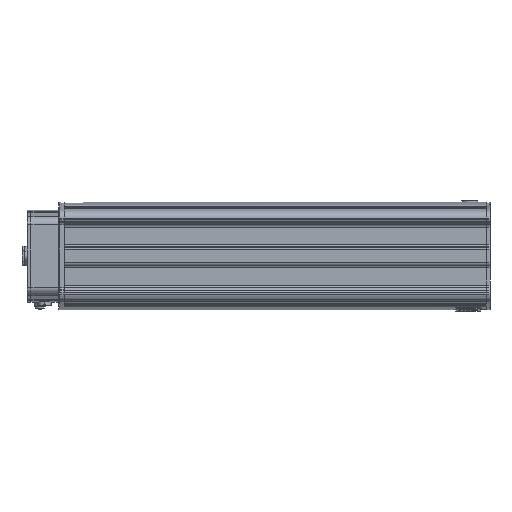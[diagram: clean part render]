
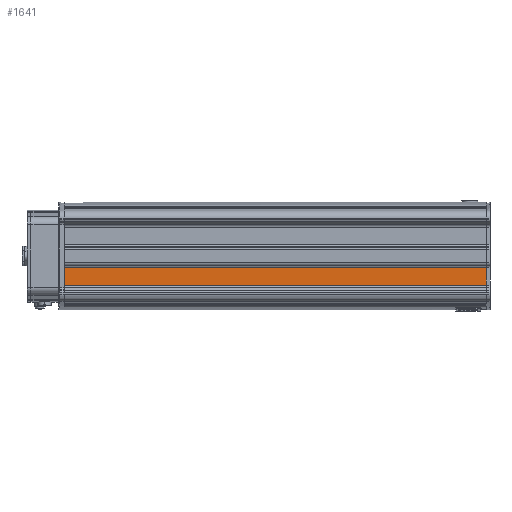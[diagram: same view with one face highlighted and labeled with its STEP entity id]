
A CAD part, left-side view. The second image highlights one B-rep face of the part: STEP entity #1641.
In plain terms, the highlighted planar face has unit normal (-1, 0, 0).
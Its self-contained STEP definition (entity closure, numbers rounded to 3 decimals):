
#821 = LINE ( 'NONE', #21736, #10389 ) ;
#922 = DIRECTION ( 'NONE',  ( 0., -1., 0. ) ) ;
#1530 = VECTOR ( 'NONE', #10546, 1000. ) ;
#1641 = ADVANCED_FACE ( 'NONE', ( #20898 ), #11945, .F. ) ;
#5688 = LINE ( 'NONE', #6912, #24351 ) ;
#5785 = DIRECTION ( 'NONE',  ( 0., -1., 0. ) ) ;
#6167 = ORIENTED_EDGE ( 'NONE', *, *, #14300, .T. ) ;
#6912 = CARTESIAN_POINT ( 'NONE',  ( -85.35, 474., -12.968 ) ) ;
#7718 = VERTEX_POINT ( 'NONE', #29670 ) ;
#10389 = VECTOR ( 'NONE', #12945, 1000. ) ;
#10546 = DIRECTION ( 'NONE',  ( 0., 0., 1. ) ) ;
#10668 = EDGE_CURVE ( 'NONE', #7718, #28575, #31618, .T. ) ;
#11047 = ORIENTED_EDGE ( 'NONE', *, *, #10668, .F. ) ;
#11888 = VECTOR ( 'NONE', #5785, 1000. ) ;
#11945 = PLANE ( 'NONE',  #23179 ) ;
#12945 = DIRECTION ( 'NONE',  ( 0., 0., 1. ) ) ;
#14300 = EDGE_CURVE ( 'NONE', #22520, #26705, #821, .T. ) ;
#16081 = EDGE_CURVE ( 'NONE', #28575, #26705, #5688, .T. ) ;
#16361 = CARTESIAN_POINT ( 'NONE',  ( -85.35, 4., -32.312 ) ) ;
#19385 = EDGE_CURVE ( 'NONE', #7718, #22520, #36539, .T. ) ;
#20616 = CARTESIAN_POINT ( 'NONE',  ( -85.35, 474., -32.312 ) ) ;
#20898 = FACE_OUTER_BOUND ( 'NONE', #28062, .T. ) ;
#21011 = CARTESIAN_POINT ( 'NONE',  ( -85.35, 4., -12.968 ) ) ;
#21736 = CARTESIAN_POINT ( 'NONE',  ( -85.35, 4., -32.312 ) ) ;
#22364 = ORIENTED_EDGE ( 'NONE', *, *, #19385, .T. ) ;
#22520 = VERTEX_POINT ( 'NONE', #16361 ) ;
#23179 = AXIS2_PLACEMENT_3D ( 'NONE', #20616, #28944, #26367 ) ;
#23210 = CARTESIAN_POINT ( 'NONE',  ( -85.35, 474., -32.312 ) ) ;
#24351 = VECTOR ( 'NONE', #922, 1000. ) ;
#26367 = DIRECTION ( 'NONE',  ( 0., 0., -1. ) ) ;
#26705 = VERTEX_POINT ( 'NONE', #21011 ) ;
#27305 = ORIENTED_EDGE ( 'NONE', *, *, #16081, .F. ) ;
#28000 = CARTESIAN_POINT ( 'NONE',  ( -85.35, 474., -32.312 ) ) ;
#28062 = EDGE_LOOP ( 'NONE', ( #6167, #27305, #11047, #22364 ) ) ;
#28575 = VERTEX_POINT ( 'NONE', #33156 ) ;
#28944 = DIRECTION ( 'NONE',  ( 1., 0., 0. ) ) ;
#29670 = CARTESIAN_POINT ( 'NONE',  ( -85.35, 474., -32.312 ) ) ;
#31618 = LINE ( 'NONE', #28000, #1530 ) ;
#33156 = CARTESIAN_POINT ( 'NONE',  ( -85.35, 474., -12.968 ) ) ;
#36539 = LINE ( 'NONE', #23210, #11888 ) ;
